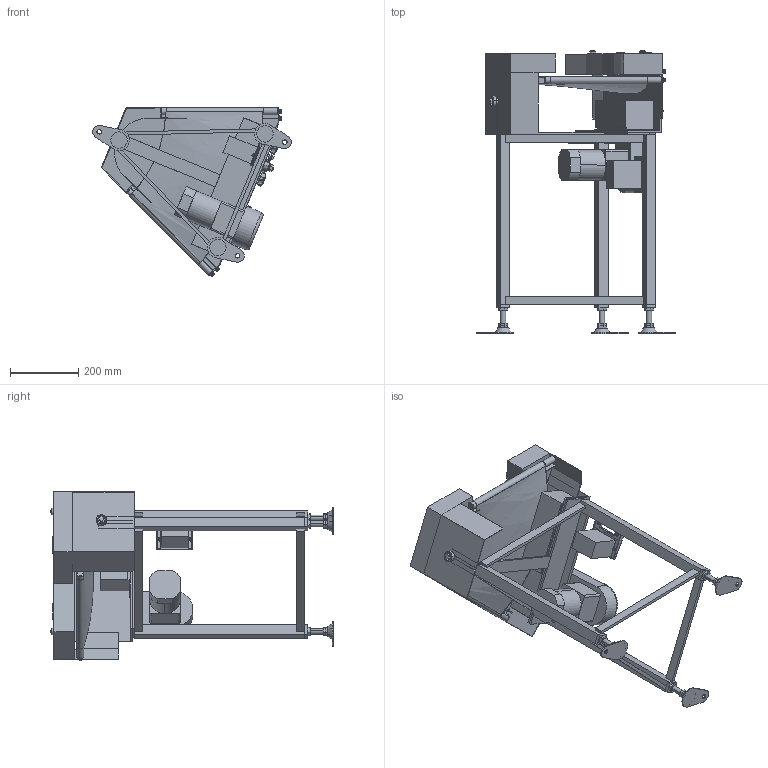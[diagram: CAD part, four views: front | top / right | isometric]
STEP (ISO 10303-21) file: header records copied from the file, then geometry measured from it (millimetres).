
FILE_DESCRIPTION( (''), '2;1');
FILE_NAME ('GBC-UD-309-200-45°-L-K-60.stp','2025-01-31T08:32:22',(''),(''),'spGate 20.6.2 (****-****-****-****)','','');
FILE_SCHEMA (('AUTOMOTIVE_DESIGN'));
Length unit declared in the file: millimetre
Products named in the file (59): NewModel; TEMP_X_T-prt0; TEMP_X_T-prt1; TEMP_X_T-prt2; TEMP_X_T-prt3; TEMP_X_T-prt4; TEMP_X_T-prt5; TEMP_X_T-prt6; TEMP_X_T-prt7; TEMP_X_T-prt8; TEMP_X_T-prt9; TEMP_X_T-prt10; TEMP_X_T-prt11; TEMP_X_T-prt12; TEMP_X_T-prt13; TEMP_X_T-prt14; TEMP_X_T-prt15; TEMP_X_T-prt16; TEMP_X_T-prt17; TEMP_X_T-prt18; TEMP_X_T-prt19; TEMP_X_T-prt20; TEMP_X_T-prt21; TEMP_X_T-prt22; TEMP_X_T-prt23; TEMP_X_T-prt24; TEMP_X_T-prt25; TEMP_X_T-prt26; TEMP_X_T-prt27; TEMP_X_T-prt28; TEMP_X_T-prt29; TEMP_X_T-prt30; TEMP_X_T-prt31; TEMP_X_T-prt32; TEMP_X_T-prt33; TEMP_X_T-prt34; TEMP_X_T-prt35; TEMP_X_T-prt36; TEMP_X_T-prt37; TEMP_X_T-prt38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
Assembly tree (58 placements, depth 2):
  NewModel
    TEMP_X_T-prt0
    TEMP_X_T-prt1
    TEMP_X_T-prt2
    TEMP_X_T-prt3
    TEMP_X_T-prt4
    TEMP_X_T-prt5
    TEMP_X_T-prt6
    TEMP_X_T-prt7
    TEMP_X_T-prt8
    TEMP_X_T-prt9
    TEMP_X_T-prt10
    TEMP_X_T-prt11
    TEMP_X_T-prt12
    TEMP_X_T-prt13
    TEMP_X_T-prt14
    TEMP_X_T-prt15
    TEMP_X_T-prt16
    TEMP_X_T-prt17
    TEMP_X_T-prt18
    TEMP_X_T-prt19
    TEMP_X_T-prt20
    TEMP_X_T-prt21
    TEMP_X_T-prt22
    TEMP_X_T-prt23
    TEMP_X_T-prt24
    TEMP_X_T-prt25
    TEMP_X_T-prt26
    TEMP_X_T-prt27
    TEMP_X_T-prt28
    TEMP_X_T-prt29
    TEMP_X_T-prt30
    TEMP_X_T-prt31
    TEMP_X_T-prt32
    TEMP_X_T-prt33
    TEMP_X_T-prt34
    TEMP_X_T-prt35
    TEMP_X_T-prt36
    TEMP_X_T-prt37
    TEMP_X_T-prt38
    TEMP_X_T-prt39
    TEMP_X_T-prt40
    TEMP_X_T-prt41
    TEMP_X_T-prt42
    TEMP_X_T-prt43
    TEMP_X_T-prt44
    TEMP_X_T-prt45
    TEMP_X_T-prt46
    TEMP_X_T-prt47
    TEMP_X_T-prt48
    TEMP_X_T-prt49
    TEMP_X_T-prt50
    TEMP_X_T-prt51
    TEMP_X_T-prt52
    TEMP_X_T-prt53
    TEMP_X_T-prt54
    TEMP_X_T-prt55
    TEMP_X_T-prt56
    TEMP_X_T-prt57
Bounding box: 581.26 x 827.92 x 493.85 mm (x, y, z)
Volume: 14337850.7 mm3; surface area: 2324058.2 mm2
Topology: 58 solids, 58 shells, 1126 faces, 2617 edges, 1675 vertices
Faces by surface type: plane 688, cylinder 288, bspline 146, sphere 4
Entity records: 59375 total; most frequent: CARTESIAN_POINT 11261, ORIENTED_EDGE 5218, DIRECTION 5073, COLOUR_RGB 3793, PRESENTATION_STYLE_ASSIGNMENT 3793, STYLED_ITEM 3793, EDGE_CURVE 2609, DRAUGHTING_PRE_DEFINED_CURVE_FONT 2609
